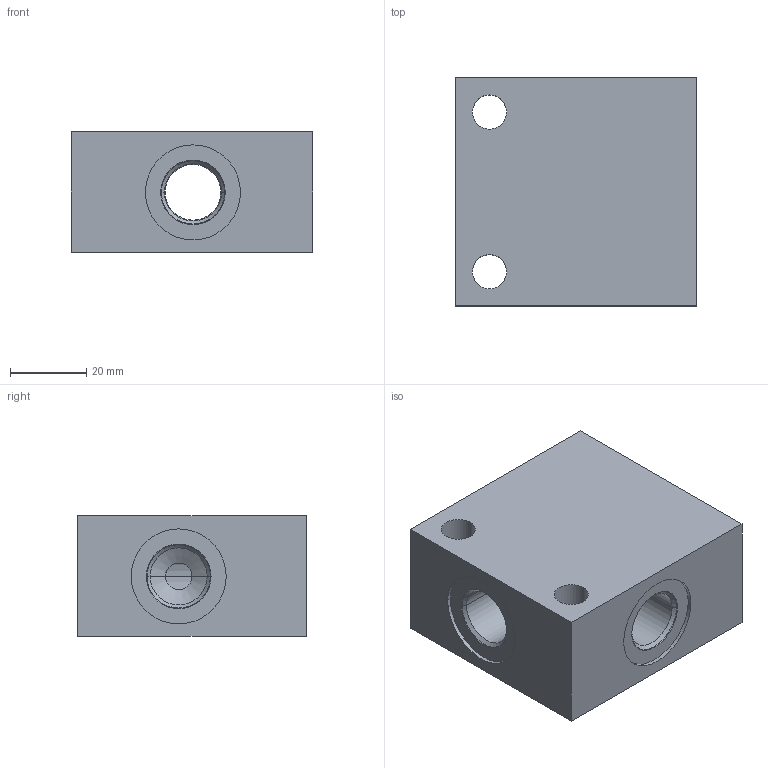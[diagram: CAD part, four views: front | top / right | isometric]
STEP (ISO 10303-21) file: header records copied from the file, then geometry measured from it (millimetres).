
FILE_DESCRIPTION((''),'2;1');
FILE_NAME('24295600','2023-10-12T',('l.soukupova'),(''),'PRO/ENGINEER BY PARAMETRIC TECHNOLOGY CORPORATION, 2015440','PRO/ENGINEER BY PARAMETRIC TECHNOLOGY CORPORATION, 2015440','');
FILE_SCHEMA(('AUTOMOTIVE_DESIGN { 1 0 10303 214 1 1 1 1 }'));
Length unit declared in the file: millimetre
Products named in the file (1): 24295600
Bounding box: 63.5 x 60 x 31.8 mm (x, y, z)
Volume: 97080.8 mm3; surface area: 23625.9 mm2
Topology: 1 solids, 5 shells, 72 faces, 351 edges, 327 vertices
Faces by surface type: cylinder 36, cone 22, plane 14
Entity records: 4820 total; most frequent: CARTESIAN_POINT 687, DIRECTION 593, PRESENTATION_STYLE_ASSIGNMENT 404, STYLED_ITEM 389, CURVE_STYLE 384, ORIENTED_EDGE 312, VECTOR 255, LINE 255
